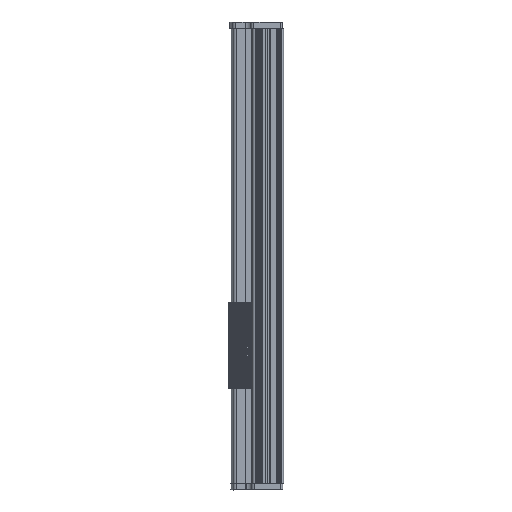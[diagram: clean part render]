
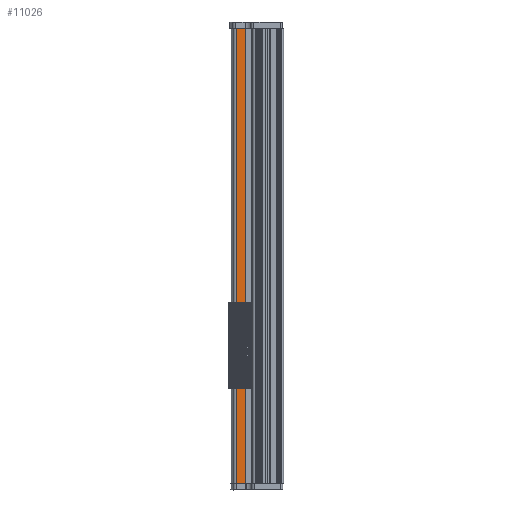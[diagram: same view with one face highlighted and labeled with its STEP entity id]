
A CAD part, left-side view. The second image highlights one B-rep face of the part: STEP entity #11026.
In plain terms, the highlighted planar face has unit normal (-1, 0, 0).
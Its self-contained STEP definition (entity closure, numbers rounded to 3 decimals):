
#643 = CARTESIAN_POINT ( 'NONE',  ( 0., -1., 0. ) ) ;
#2114 = LINE ( 'NONE', #7187, #20115 ) ;
#4267 = CARTESIAN_POINT ( 'NONE',  ( 0., 0., 0. ) ) ;
#5990 = CARTESIAN_POINT ( 'NONE',  ( 0., 14.658, 0. ) ) ;
#6202 = PLANE ( 'NONE',  #23987 ) ;
#7187 = CARTESIAN_POINT ( 'NONE',  ( 0., 14.658, 740. ) ) ;
#7702 = DIRECTION ( 'NONE',  ( 0., 0., 1. ) ) ;
#7865 = FACE_OUTER_BOUND ( 'NONE', #40021, .T. ) ;
#8669 = EDGE_CURVE ( 'NONE', #46544, #34419, #46058, .T. ) ;
#9635 = CARTESIAN_POINT ( 'NONE',  ( 0., 0., 740. ) ) ;
#9793 = DIRECTION ( 'NONE',  ( 1., 0., 0. ) ) ;
#10154 = LINE ( 'NONE', #4267, #25925 ) ;
#10801 = DIRECTION ( 'NONE',  ( 0., 0., -1. ) ) ;
#11026 = ADVANCED_FACE ( 'NONE', ( #7865 ), #6202, .F. ) ;
#11335 = EDGE_CURVE ( 'NONE', #35264, #46544, #10154, .T. ) ;
#12040 = ORIENTED_EDGE ( 'NONE', *, *, #11335, .T. ) ;
#16282 = LINE ( 'NONE', #24577, #24681 ) ;
#16332 = CARTESIAN_POINT ( 'NONE',  ( 0., -1., 740. ) ) ;
#17517 = DIRECTION ( 'NONE',  ( 0., -1., 0. ) ) ;
#20115 = VECTOR ( 'NONE', #10801, 1000. ) ;
#21793 = EDGE_CURVE ( 'NONE', #37775, #35264, #2114, .T. ) ;
#23987 = AXIS2_PLACEMENT_3D ( 'NONE', #9635, #9793, #35042 ) ;
#24577 = CARTESIAN_POINT ( 'NONE',  ( 0., 0., 740. ) ) ;
#24681 = VECTOR ( 'NONE', #17517, 1000. ) ;
#24824 = CARTESIAN_POINT ( 'NONE',  ( 0., -1., 0. ) ) ;
#25925 = VECTOR ( 'NONE', #40379, 1000. ) ;
#26844 = VECTOR ( 'NONE', #7702, 1000. ) ;
#29586 = EDGE_CURVE ( 'NONE', #37775, #34419, #16282, .T. ) ;
#34188 = ORIENTED_EDGE ( 'NONE', *, *, #21793, .T. ) ;
#34419 = VERTEX_POINT ( 'NONE', #16332 ) ;
#35042 = DIRECTION ( 'NONE',  ( 0., 0., -1. ) ) ;
#35264 = VERTEX_POINT ( 'NONE', #5990 ) ;
#35738 = ORIENTED_EDGE ( 'NONE', *, *, #29586, .F. ) ;
#37775 = VERTEX_POINT ( 'NONE', #40344 ) ;
#40021 = EDGE_LOOP ( 'NONE', ( #35738, #34188, #12040, #42291 ) ) ;
#40344 = CARTESIAN_POINT ( 'NONE',  ( 0., 14.658, 740. ) ) ;
#40379 = DIRECTION ( 'NONE',  ( 0., -1., 0. ) ) ;
#42291 = ORIENTED_EDGE ( 'NONE', *, *, #8669, .T. ) ;
#46058 = LINE ( 'NONE', #643, #26844 ) ;
#46544 = VERTEX_POINT ( 'NONE', #24824 ) ;
